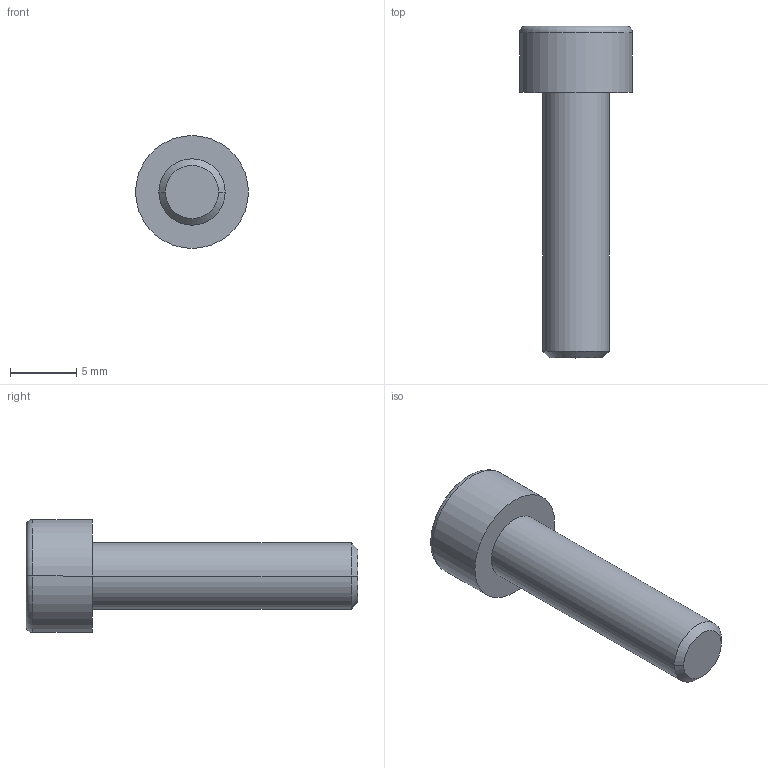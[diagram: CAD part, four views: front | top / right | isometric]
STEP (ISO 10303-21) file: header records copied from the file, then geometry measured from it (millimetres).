
FILE_DESCRIPTION (( 'STEP AP203' ), '1' );
FILE_NAME ('044 Vis CHC M5-16.STEP', '2021-10-27T18:31:37', ( '' ), ( '' ), 'SwSTEP 2.0', 'SolidWorks 2019', '' );
FILE_SCHEMA (( 'CONFIG_CONTROL_DESIGN' ));
Length unit declared in the file: millimetre
Products named in the file (1): 044 Vis CHC M5-16
Bounding box: 8.5 x 25 x 8.5 mm (x, y, z)
Volume: 635.5 mm3; surface area: 585.8 mm2
Topology: 1 solids, 1 shells, 25 faces, 56 edges, 33 vertices
Faces by surface type: plane 15, cone 4, cylinder 4, torus 2
Entity records: 755 total; most frequent: DIRECTION 128, CARTESIAN_POINT 113, ORIENTED_EDGE 108, EDGE_CURVE 54, AXIS2_PLACEMENT_3D 48, VERTEX_POINT 33, LINE 32, VECTOR 32
